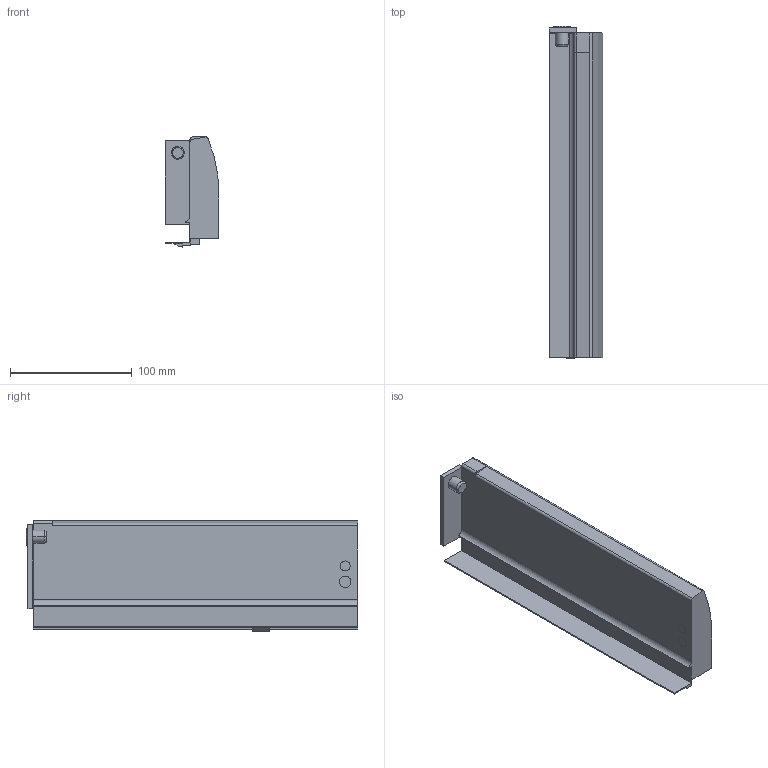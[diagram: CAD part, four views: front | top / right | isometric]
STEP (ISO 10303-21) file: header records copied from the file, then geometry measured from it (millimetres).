
FILE_DESCRIPTION (( 'STEP AP214' ), '1' );
FILE_NAME ('_IMOS_NOVA-Pro_Dekor-H90_DL_NL270_RE.step', '2010-07-06T09:13:58', ( 'grass' ), ( '' ), 'SwSTEP 2.0', 'SolidWorks 2009', '' );
FILE_SCHEMA (( 'AUTOMOTIVE_DESIGN' ));
Length unit declared in the file: millimetre
Products named in the file (1): _IMOS_NOVA-Pro_Dekor-H90_DL_NL270_RE
Bounding box: 44.3 x 272.7 x 90.49 mm (x, y, z)
Volume: 302582.2 mm3; surface area: 95670.1 mm2
Topology: 1 solids, 1 shells, 69 faces, 182 edges, 120 vertices
Faces by surface type: plane 47, cylinder 17, cone 4, bspline 1
Entity records: 2168 total; most frequent: CARTESIAN_POINT 393, ORIENTED_EDGE 364, DIRECTION 357, EDGE_CURVE 182, VECTOR 141, LINE 141, VERTEX_POINT 120, AXIS2_PLACEMENT_3D 108
